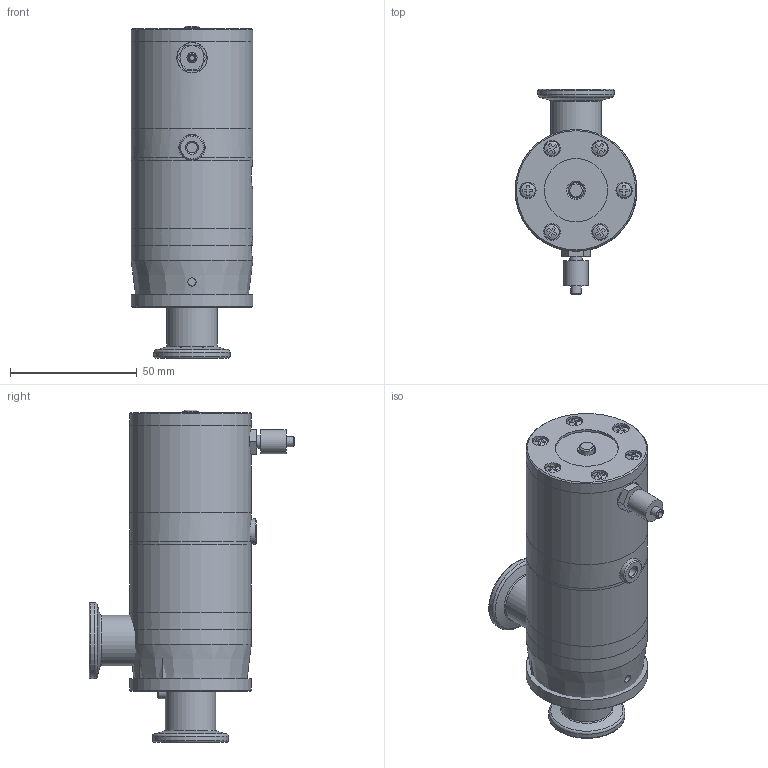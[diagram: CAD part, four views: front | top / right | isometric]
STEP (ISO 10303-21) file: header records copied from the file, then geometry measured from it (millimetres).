
FILE_DESCRIPTION( ( 'Unknown' ), '1' );
FILE_NAME( 'X:/Daten ( aktueller Bestand )/Projekte und Zeichnungen/Solid Edge/21 Eck + Durchgangsventile KF ISO-K, el.pneumatisch/Alu/Eckventil/NW16/Internet/310211.stp', 'Unknown', ( 'Unknown' ), ( 'Unknown' ), 'XStep 1.0', 'Unknown', ' ' );
FILE_SCHEMA( ( 'automotive_design' ) );
Length unit declared in the file: millimetre
Products named in the file (10): Assem1; Gehaeuse Eck.Alu.NW16; 3102-1; 3102-2; 3102-3; 3102-4; 3102-5; Schraube 3x8; M4x4; Anschluss Festo
Bounding box: 48 x 81.2 x 131 mm (x, y, z)
Volume: 338839.2 mm3; surface area: 92040 mm2
Topology: 24 solids, 24 shells, 428 faces, 963 edges, 637 vertices
Faces by surface type: plane 238, cylinder 121, cone 50, torus 12, sphere 7
Full cylindrical faces by diameter (mm): 2 x2, 2.459 x12, 2.8 x2, 3 x7, 3.242 x4, 3.3 x12, 4 x5, 4.134 x4, 5 x4, 5.793 x7, 6 x4, 6.3 x2, 6.5 x12, 9.518 x2, 10 x2, 10.3 x2, 12 x2, 12.5 x2, 17.2 x4, 20 x6, 25 x2, 26 x2, 30 x4, 33.739 x2, 37.97 x2, 39 x2, 39.8 x2, 43.698 x2, 48 x6
Entity records: 4545 total; most frequent: CARTESIAN_POINT 1148, DIRECTION 698, ORIENTED_EDGE 458, AXIS2_PLACEMENT_3D 310, EDGE_LOOP 295, EDGE_CURVE 229, FACE_OUTER_BOUND 223, VERTEX_POINT 200
